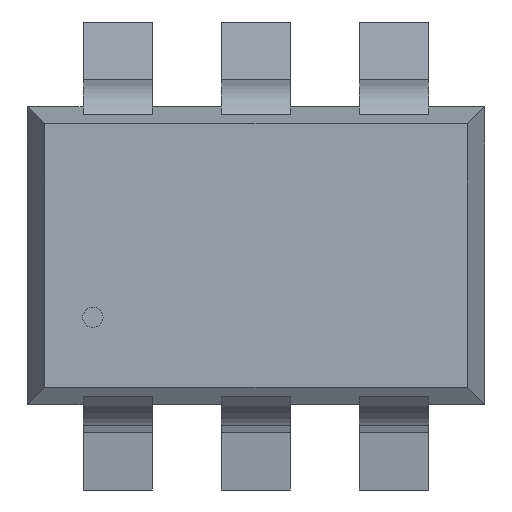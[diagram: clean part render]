
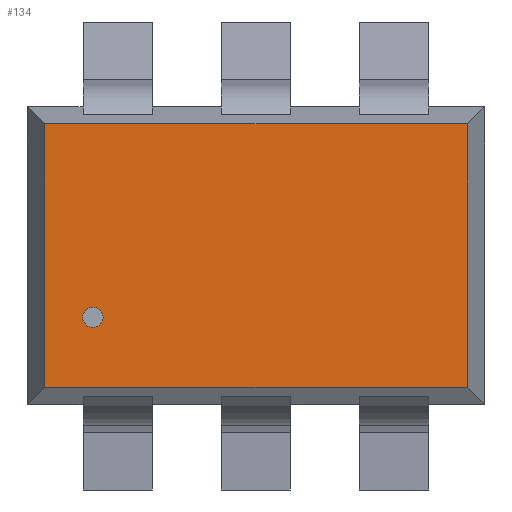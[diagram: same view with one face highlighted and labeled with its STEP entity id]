
A CAD part, top view. The second image highlights one B-rep face of the part: STEP entity #134.
In plain terms, the highlighted planar face has unit normal (0, 0, 1).
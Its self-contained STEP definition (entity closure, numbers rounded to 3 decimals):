
#24 = VERTEX_POINT('',#25);
#25 = CARTESIAN_POINT('',(-0.761,-0.338,1.236));
#32 = CYLINDRICAL_SURFACE('',#33,0.048);
#33 = AXIS2_PLACEMENT_3D('',#34,#35,#36);
#34 = CARTESIAN_POINT('',(-0.761,-0.29,1.136));
#35 = DIRECTION('',(0.,0.,1.));
#36 = DIRECTION('',(0.,-1.,0.));
#44 = CYLINDRICAL_SURFACE('',#45,0.048);
#45 = AXIS2_PLACEMENT_3D('',#46,#47,#48);
#46 = CARTESIAN_POINT('',(-0.761,-0.29,1.136));
#47 = DIRECTION('',(0.,0.,1.));
#48 = DIRECTION('',(0.,-1.,0.));
#56 = EDGE_CURVE('',#57,#24,#59,.T.);
#57 = VERTEX_POINT('',#58);
#58 = CARTESIAN_POINT('',(-0.761,-0.242,1.236));
#59 = SURFACE_CURVE('',#60,(#65,#72),.PCURVE_S1.);
#60 = CIRCLE('',#61,0.048);
#61 = AXIS2_PLACEMENT_3D('',#62,#63,#64);
#62 = CARTESIAN_POINT('',(-0.761,-0.29,1.236));
#63 = DIRECTION('',(-0.,0.,1.));
#64 = DIRECTION('',(0.,-1.,0.));
#65 = PCURVE('',#32,#66);
#66 = DEFINITIONAL_REPRESENTATION('',(#67),#71);
#67 = LINE('',#68,#69);
#68 = CARTESIAN_POINT('',(0.,0.1));
#69 = VECTOR('',#70,1.);
#70 = DIRECTION('',(1.,0.));
#71 = ( GEOMETRIC_REPRESENTATION_CONTEXT(2) 
PARAMETRIC_REPRESENTATION_CONTEXT() REPRESENTATION_CONTEXT('2D SPACE',''
  ) );
#72 = PCURVE('',#73,#78);
#73 = PLANE('',#74);
#74 = AXIS2_PLACEMENT_3D('',#75,#76,#77);
#75 = CARTESIAN_POINT('',(-1.069,-0.7,1.236));
#76 = DIRECTION('',(0.,0.,1.));
#77 = DIRECTION('',(0.,-1.,0.));
#78 = DEFINITIONAL_REPRESENTATION('',(#79),#83);
#79 = CIRCLE('',#80,0.048);
#80 = AXIS2_PLACEMENT_2D('',#81,#82);
#81 = CARTESIAN_POINT('',(-0.41,0.308));
#82 = DIRECTION('',(1.,0.));
#83 = ( GEOMETRIC_REPRESENTATION_CONTEXT(2) 
PARAMETRIC_REPRESENTATION_CONTEXT() REPRESENTATION_CONTEXT('2D SPACE',''
  ) );
#134 = ADVANCED_FACE('',(#135,#160),#73,.T.);
#135 = FACE_BOUND('',#136,.T.);
#136 = EDGE_LOOP('',(#137,#159));
#137 = ORIENTED_EDGE('',*,*,#138,.F.);
#138 = EDGE_CURVE('',#24,#57,#139,.T.);
#139 = SURFACE_CURVE('',#140,(#145,#152),.PCURVE_S1.);
#140 = CIRCLE('',#141,0.048);
#141 = AXIS2_PLACEMENT_3D('',#142,#143,#144);
#142 = CARTESIAN_POINT('',(-0.761,-0.29,1.236));
#143 = DIRECTION('',(-0.,0.,1.));
#144 = DIRECTION('',(0.,-1.,0.));
#145 = PCURVE('',#73,#146);
#146 = DEFINITIONAL_REPRESENTATION('',(#147),#151);
#147 = CIRCLE('',#148,0.048);
#148 = AXIS2_PLACEMENT_2D('',#149,#150);
#149 = CARTESIAN_POINT('',(-0.41,0.308));
#150 = DIRECTION('',(1.,0.));
#151 = ( GEOMETRIC_REPRESENTATION_CONTEXT(2) 
PARAMETRIC_REPRESENTATION_CONTEXT() REPRESENTATION_CONTEXT('2D SPACE',''
  ) );
#152 = PCURVE('',#44,#153);
#153 = DEFINITIONAL_REPRESENTATION('',(#154),#158);
#154 = LINE('',#155,#156);
#155 = CARTESIAN_POINT('',(0.,0.1));
#156 = VECTOR('',#157,1.);
#157 = DIRECTION('',(1.,0.));
#158 = ( GEOMETRIC_REPRESENTATION_CONTEXT(2) 
PARAMETRIC_REPRESENTATION_CONTEXT() REPRESENTATION_CONTEXT('2D SPACE',''
  ) );
#159 = ORIENTED_EDGE('',*,*,#56,.F.);
#160 = FACE_BOUND('',#161,.T.);
#161 = EDGE_LOOP('',(#162,#192,#220,#248));
#162 = ORIENTED_EDGE('',*,*,#163,.T.);
#163 = EDGE_CURVE('',#164,#166,#168,.T.);
#164 = VERTEX_POINT('',#165);
#165 = CARTESIAN_POINT('',(-0.988,-0.62,1.236));
#166 = VERTEX_POINT('',#167);
#167 = CARTESIAN_POINT('',(1.001,-0.62,1.236));
#168 = SURFACE_CURVE('',#169,(#173,#180),.PCURVE_S1.);
#169 = LINE('',#170,#171);
#170 = CARTESIAN_POINT('',(1.081,-0.62,1.236));
#171 = VECTOR('',#172,1.);
#172 = DIRECTION('',(1.,0.,0.));
#173 = PCURVE('',#73,#174);
#174 = DEFINITIONAL_REPRESENTATION('',(#175),#179);
#175 = LINE('',#176,#177);
#176 = CARTESIAN_POINT('',(-0.08,2.15));
#177 = VECTOR('',#178,1.);
#178 = DIRECTION('',(0.,1.));
#179 = ( GEOMETRIC_REPRESENTATION_CONTEXT(2) 
PARAMETRIC_REPRESENTATION_CONTEXT() REPRESENTATION_CONTEXT('2D SPACE',''
  ) );
#180 = PCURVE('',#181,#186);
#181 = PLANE('',#182);
#182 = AXIS2_PLACEMENT_3D('',#183,#184,#185);
#183 = CARTESIAN_POINT('',(-1.069,-0.62,1.236));
#184 = DIRECTION('',(0.,-0.966,0.259));
#185 = DIRECTION('',(0.,-0.259,-0.966));
#186 = DEFINITIONAL_REPRESENTATION('',(#187),#191);
#187 = LINE('',#188,#189);
#188 = CARTESIAN_POINT('',(0.,2.15));
#189 = VECTOR('',#190,1.);
#190 = DIRECTION('',(0.,1.));
#191 = ( GEOMETRIC_REPRESENTATION_CONTEXT(2) 
PARAMETRIC_REPRESENTATION_CONTEXT() REPRESENTATION_CONTEXT('2D SPACE',''
  ) );
#192 = ORIENTED_EDGE('',*,*,#193,.T.);
#193 = EDGE_CURVE('',#166,#194,#196,.T.);
#194 = VERTEX_POINT('',#195);
#195 = CARTESIAN_POINT('',(1.001,0.62,1.236));
#196 = SURFACE_CURVE('',#197,(#201,#208),.PCURVE_S1.);
#197 = LINE('',#198,#199);
#198 = CARTESIAN_POINT('',(1.001,0.7,1.236));
#199 = VECTOR('',#200,1.);
#200 = DIRECTION('',(0.,1.,0.));
#201 = PCURVE('',#73,#202);
#202 = DEFINITIONAL_REPRESENTATION('',(#203),#207);
#203 = LINE('',#204,#205);
#204 = CARTESIAN_POINT('',(-1.4,2.07));
#205 = VECTOR('',#206,1.);
#206 = DIRECTION('',(-1.,0.));
#207 = ( GEOMETRIC_REPRESENTATION_CONTEXT(2) 
PARAMETRIC_REPRESENTATION_CONTEXT() REPRESENTATION_CONTEXT('2D SPACE',''
  ) );
#208 = PCURVE('',#209,#214);
#209 = PLANE('',#210);
#210 = AXIS2_PLACEMENT_3D('',#211,#212,#213);
#211 = CARTESIAN_POINT('',(1.001,-0.7,1.236));
#212 = DIRECTION('',(0.966,0.,0.259));
#213 = DIRECTION('',(-0.259,0.,0.966)
  );
#214 = DEFINITIONAL_REPRESENTATION('',(#215),#219);
#215 = LINE('',#216,#217);
#216 = CARTESIAN_POINT('',(0.,-1.4));
#217 = VECTOR('',#218,1.);
#218 = DIRECTION('',(0.,-1.));
#219 = ( GEOMETRIC_REPRESENTATION_CONTEXT(2) 
PARAMETRIC_REPRESENTATION_CONTEXT() REPRESENTATION_CONTEXT('2D SPACE',''
  ) );
#220 = ORIENTED_EDGE('',*,*,#221,.T.);
#221 = EDGE_CURVE('',#194,#222,#224,.T.);
#222 = VERTEX_POINT('',#223);
#223 = CARTESIAN_POINT('',(-0.988,0.62,1.236));
#224 = SURFACE_CURVE('',#225,(#229,#236),.PCURVE_S1.);
#225 = LINE('',#226,#227);
#226 = CARTESIAN_POINT('',(-1.069,0.62,1.236));
#227 = VECTOR('',#228,1.);
#228 = DIRECTION('',(-1.,0.,0.));
#229 = PCURVE('',#73,#230);
#230 = DEFINITIONAL_REPRESENTATION('',(#231),#235);
#231 = LINE('',#232,#233);
#232 = CARTESIAN_POINT('',(-1.32,0.));
#233 = VECTOR('',#234,1.);
#234 = DIRECTION('',(0.,-1.));
#235 = ( GEOMETRIC_REPRESENTATION_CONTEXT(2) 
PARAMETRIC_REPRESENTATION_CONTEXT() REPRESENTATION_CONTEXT('2D SPACE',''
  ) );
#236 = PCURVE('',#237,#242);
#237 = PLANE('',#238);
#238 = AXIS2_PLACEMENT_3D('',#239,#240,#241);
#239 = CARTESIAN_POINT('',(-1.069,0.62,1.236));
#240 = DIRECTION('',(0.,0.966,0.259));
#241 = DIRECTION('',(0.,-0.259,0.966));
#242 = DEFINITIONAL_REPRESENTATION('',(#243),#247);
#243 = LINE('',#244,#245);
#244 = CARTESIAN_POINT('',(0.,0.));
#245 = VECTOR('',#246,1.);
#246 = DIRECTION('',(0.,-1.));
#247 = ( GEOMETRIC_REPRESENTATION_CONTEXT(2) 
PARAMETRIC_REPRESENTATION_CONTEXT() REPRESENTATION_CONTEXT('2D SPACE',''
  ) );
#248 = ORIENTED_EDGE('',*,*,#249,.T.);
#249 = EDGE_CURVE('',#222,#164,#250,.T.);
#250 = SURFACE_CURVE('',#251,(#255,#262),.PCURVE_S1.);
#251 = LINE('',#252,#253);
#252 = CARTESIAN_POINT('',(-0.988,-0.7,1.236));
#253 = VECTOR('',#254,1.);
#254 = DIRECTION('',(0.,-1.,0.));
#255 = PCURVE('',#73,#256);
#256 = DEFINITIONAL_REPRESENTATION('',(#257),#261);
#257 = LINE('',#258,#259);
#258 = CARTESIAN_POINT('',(0.,0.08));
#259 = VECTOR('',#260,1.);
#260 = DIRECTION('',(1.,0.));
#261 = ( GEOMETRIC_REPRESENTATION_CONTEXT(2) 
PARAMETRIC_REPRESENTATION_CONTEXT() REPRESENTATION_CONTEXT('2D SPACE',''
  ) );
#262 = PCURVE('',#263,#268);
#263 = PLANE('',#264);
#264 = AXIS2_PLACEMENT_3D('',#265,#266,#267);
#265 = CARTESIAN_POINT('',(-0.988,-0.7,1.236));
#266 = DIRECTION('',(-0.966,0.,0.259)
  );
#267 = DIRECTION('',(-0.259,0.,-0.966
    ));
#268 = DEFINITIONAL_REPRESENTATION('',(#269),#273);
#269 = LINE('',#270,#271);
#270 = CARTESIAN_POINT('',(0.,0.));
#271 = VECTOR('',#272,1.);
#272 = DIRECTION('',(0.,1.));
#273 = ( GEOMETRIC_REPRESENTATION_CONTEXT(2) 
PARAMETRIC_REPRESENTATION_CONTEXT() REPRESENTATION_CONTEXT('2D SPACE',''
  ) );
